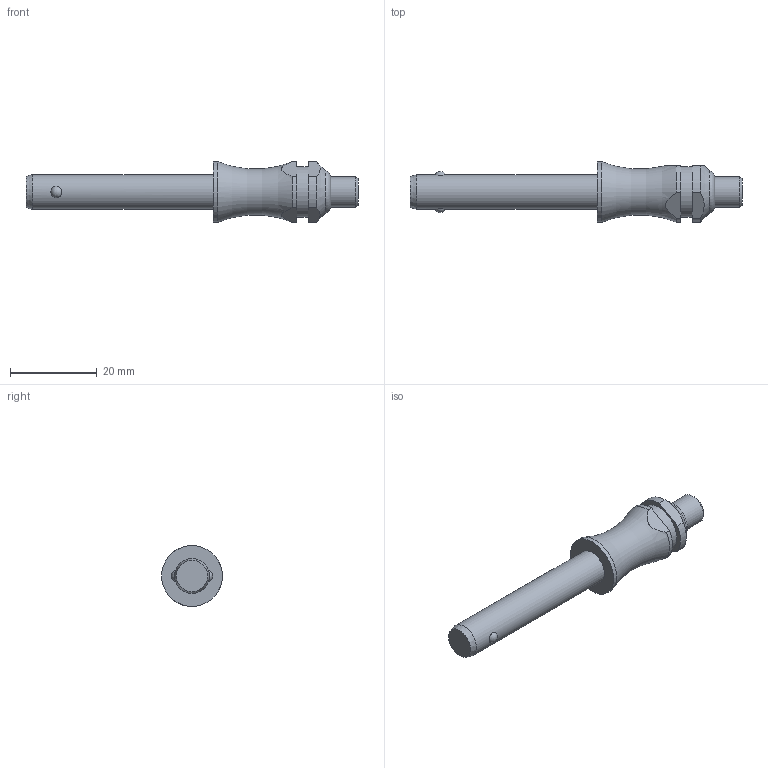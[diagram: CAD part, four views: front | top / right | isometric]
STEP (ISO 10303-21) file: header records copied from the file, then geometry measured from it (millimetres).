
FILE_DESCRIPTION( ( 'STEP AP203' ), '1' );
FILE_NAME( 'C:/Temp/Ganter_Step_05_03_2020/data/3_1/gn113_3/Stainless Steel-Ball lock pin GN 113.3-8-35 (deactivated).stp', '2020-03-12T08:18:24', ( 'License CC BY-ND 4.0' ), ( 'CADENAS' ), ' ', 'PARTsolutions', ' ' );
FILE_SCHEMA( ( 'CONFIG_CONTROL_DESIGN' ) );
Length unit declared in the file: millimetre
Products named in the file (1): _Stainless Steel-Ball lock pin GN 113.3-8-35 (deactivated)
Bounding box: 76.5 x 14 x 14 mm (x, y, z)
Volume: 5391.3 mm3; surface area: 2543 mm2
Topology: 1 solids, 1 shells, 28 faces, 60 edges, 39 vertices
Faces by surface type: plane 11, cylinder 10, cone 3, torus 2, sphere 2
Full cylindrical faces by diameter (mm): 7 x1, 8 x1, 11.6 x1, 14 x1
Entity records: 916 total; most frequent: CARTESIAN_POINT 303, DIRECTION 122, ORIENTED_EDGE 98, AXIS2_PLACEMENT_3D 52, EDGE_CURVE 49, EDGE_LOOP 42, VERTEX_POINT 37, FACE_OUTER_BOUND 34
